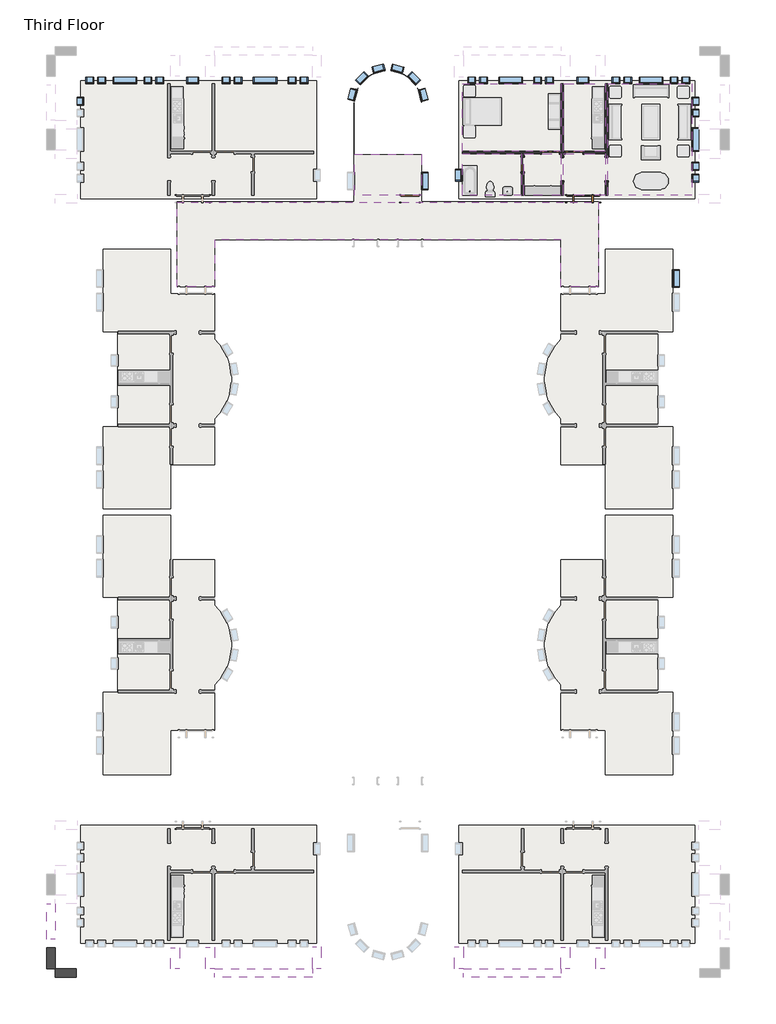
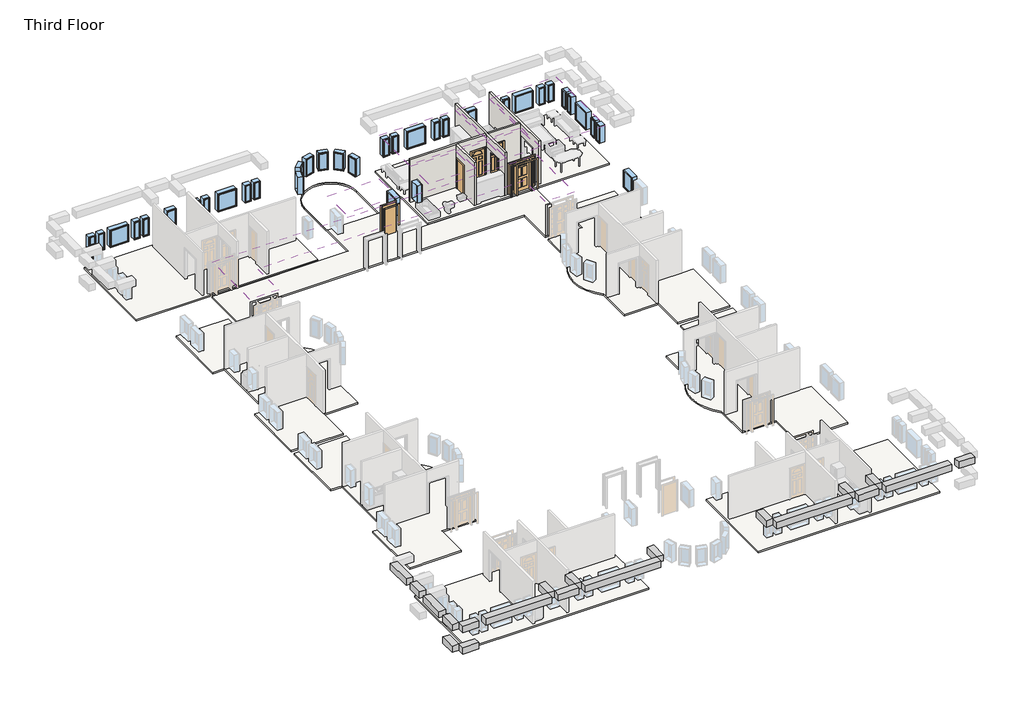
# One storey, part 3 of 4: 37 windows, 11 beams, 9 slabs, 8 coverings, 5 doors, 5 walls.
"""IFC4 building model written with IfcOpenShell, lengths in millimetres."""

from ifc_helpers import new_model, si_unit, point, frame, frame_2d, origin, place, context, project, spatial, polyline, circle_curve, trimmed, segment, composite_curve, outline, extrude, faceted_brep, transform, mapped, element, save
from components import door_829da954, door_2e3b4da2, door_4d6c7550, door_632be17d, door_dba5aa2e, window_da97879f, window_d61ef850, window_60baf983, window_ed80354a, window_15c49d37, window_0e2fc6ce, window_6eb97611, window_d89bf842

model = new_model("IFC4")

# Units and contexts
model_context = context("Model", 3, world=origin())
ifc_project = project(units=[si_unit("LENGTHUNIT", "METRE", prefix="MILLI")], contexts=[model_context])

# Site, building, storey
site = spatial("IfcSite", under=ifc_project)
building = spatial("IfcBuilding", under=site)
storey = spatial("IfcBuildingStorey", under=building, Name="Third Floor", Elevation=6096.0)

# Beams
placement = place(None, origin())
element("IfcBeam", 1, ObjectType="Concrete-Rectangular Beam : 18 x 18", at=placement, inside=storey, context=model_context, shape_type="SweptSolid", body=[
    extrude(outline(polyline([(2093.9410437, -35349.9683133), (2093.9410437, -35807.1683133), (1027.1410437, -35807.1683133), (1027.1410437, -35349.9683133), (2093.9410437, -35349.9683133)])), frame((0.0, 0.0, 8686.8), z_axis=(0.0, 0.0, 1.0), x_axis=(1.0, 0.0, 0.0)), (0.0, 0.0, 1.0), 457.2),
    extrude(outline(polyline([(569.9410437, -35349.9683133), (569.9410437, -35807.1683133), (-3862.3589563, -35807.1683133), (-3862.3589563, -35349.9683133), (569.9410437, -35349.9683133)])), frame((0.0, 0.0, 8686.8), z_axis=(0.0, 0.0, 1.0), x_axis=(1.0, 0.0, 0.0)), (0.0, 0.0, 1.0), 457.2),
    extrude(outline(polyline([(-5665.7589563, -35807.1683133), (-5665.7589563, -35349.9683133), (-4319.5589563, -35349.9683133), (-4319.5589563, -35807.1683133), (-5665.7589563, -35807.1683133)])), frame((0.0, 0.0, 8686.8), z_axis=(0.0, 0.0, 1.0), x_axis=(1.0, 0.0, 0.0)), (0.0, 0.0, 1.0), 457.2),
    extrude(outline(polyline([(-6122.9589563, -35349.9683133), (-6122.9589563, -35807.1683133), (-11164.8589563, -35807.1683133), (-11164.8589563, -35349.9683133), (-6122.9589563, -35349.9683133)])), frame((0.0, 0.0, 8686.8), z_axis=(0.0, 0.0, 1.0), x_axis=(1.0, 0.0, 0.0)), (0.0, 0.0, 1.0), 457.2),
])
element("IfcBeam", 2, ObjectType="Concrete-Rectangular Beam : 18 x 18", at=placement, inside=storey, context=model_context, shape_type="SweptSolid", body=[
    extrude(outline(polyline([(-11622.0589563, -34232.3683133), (-11164.8589563, -34232.3683133), (-11164.8589563, -35349.9683133), (-11622.0589563, -35349.9683133), (-11622.0589563, -34232.3683133)])), frame((0.0, 0.0, 8686.8), z_axis=(0.0, 0.0, 1.0), x_axis=(1.0, 0.0, 0.0)), (0.0, 0.0, 1.0), 457.2),
])
element("IfcBeam", 3, ObjectType="Concrete-Rectangular Beam : 18 x 18", at=placement, inside=storey, context=model_context, shape_type="SweptSolid", body=[
    extrude(outline(polyline([(-6122.9589563, -34251.4183133), (-5665.7589563, -34251.4183133), (-5665.7589563, -35349.9683133), (-6122.9589563, -35349.9683133), (-6122.9589563, -34251.4183133)])), frame((0.0, 0.0, 8686.8), z_axis=(0.0, 0.0, 1.0), x_axis=(1.0, 0.0, 0.0)), (0.0, 0.0, 1.0), 457.2),
])
element("IfcBeam", 4, ObjectType="Concrete-Rectangular Beam : 18 x 18", at=placement, inside=storey, context=model_context, shape_type="SweptSolid", body=[
    extrude(outline(polyline([(-4319.5589563, -34283.1683133), (-3862.3589563, -34283.1683133), (-3862.3589563, -35349.9683133), (-4319.5589563, -35349.9683133), (-4319.5589563, -34283.1683133)])), frame((0.0, 0.0, 8686.8), z_axis=(0.0, 0.0, 1.0), x_axis=(1.0, 0.0, 0.0)), (0.0, 0.0, 1.0), 457.2),
])
element("IfcBeam", 5, ObjectType="Concrete-Rectangular Beam : 18 x 18", at=placement, inside=storey, context=model_context, shape_type="SweptSolid", body=[
    extrude(outline(polyline([(-32218.2839563, -35807.1683133), (-32218.2839563, -35349.9683133), (-31151.4839563, -35349.9683133), (-31151.4839563, -35807.1683133), (-32218.2839563, -35807.1683133)])), frame((0.0, 0.0, 8686.8), z_axis=(0.0, 0.0, 1.0), x_axis=(1.0, 0.0, 0.0)), (0.0, 0.0, 1.0), 457.2),
    extrude(outline(polyline([(-30694.2839563, -35807.1683133), (-30694.2839563, -35349.9683133), (-26261.9839563, -35349.9683133), (-26261.9839563, -35807.1683133), (-30694.2839563, -35807.1683133)])), frame((0.0, 0.0, 8686.8), z_axis=(0.0, 0.0, 1.0), x_axis=(1.0, 0.0, 0.0)), (0.0, 0.0, 1.0), 457.2),
    extrude(outline(polyline([(-24458.5839563, -35349.9683133), (-24458.5839563, -35807.1683133), (-25804.7839563, -35807.1683133), (-25804.7839563, -35349.9683133), (-24458.5839563, -35349.9683133)])), frame((0.0, 0.0, 8686.8), z_axis=(0.0, 0.0, 1.0), x_axis=(1.0, 0.0, 0.0)), (0.0, 0.0, 1.0), 457.2),
    extrude(outline(polyline([(-24001.3839563, -35807.1683133), (-24001.3839563, -35349.9683133), (-18959.4839563, -35349.9683133), (-18959.4839563, -35807.1683133), (-24001.3839563, -35807.1683133)])), frame((0.0, 0.0, 8686.8), z_axis=(0.0, 0.0, 1.0), x_axis=(1.0, 0.0, 0.0)), (0.0, 0.0, 1.0), 457.2),
])
element("IfcBeam", 6, ObjectType="Concrete-Rectangular Beam : 18 x 18", at=placement, inside=storey, context=model_context, shape_type="SweptSolid", body=[
    extrude(outline(polyline([(-32218.2839563, -35349.9683133), (-32675.4839563, -35349.9683133), (-32675.4839563, -34283.1683133), (-32218.2839563, -34283.1683133), (-32218.2839563, -35349.9683133)])), frame((0.0, 0.0, 8686.8), z_axis=(0.0, 0.0, 1.0), x_axis=(1.0, 0.0, 0.0)), (0.0, 0.0, 1.0), 457.2),
    extrude(outline(polyline([(-32675.4839563, -28187.1683133), (-32218.2839563, -28187.1683133), (-32218.2839563, -30015.9683133), (-32675.4839563, -30015.9683133), (-32675.4839563, -28187.1683133)])), frame((0.0, 0.0, 8686.8), z_axis=(0.0, 0.0, 1.0), x_axis=(1.0, 0.0, 0.0)), (0.0, 0.0, 1.0), 457.2),
    extrude(outline(polyline([(-32675.4839563, -30473.1683133), (-32218.2839563, -30473.1683133), (-32218.2839563, -31539.9683133), (-32675.4839563, -31539.9683133), (-32675.4839563, -30473.1683133)])), frame((0.0, 0.0, 8686.8), z_axis=(0.0, 0.0, 1.0), x_axis=(1.0, 0.0, 0.0)), (0.0, 0.0, 1.0), 457.2),
    extrude(outline(polyline([(-32218.2839563, -33825.9683133), (-32675.4839563, -33825.9683133), (-32675.4839563, -31997.1683133), (-32218.2839563, -31997.1683133), (-32218.2839563, -33825.9683133)])), frame((0.0, 0.0, 8686.8), z_axis=(0.0, 0.0, 1.0), x_axis=(1.0, 0.0, 0.0)), (0.0, 0.0, 1.0), 457.2),
])
element("IfcBeam", 7, ObjectType="Concrete-Rectangular Beam : 18 x 18", at=placement, inside=storey, context=model_context, shape_type="SweptSolid", body=[
    extrude(outline(polyline([(-32218.2839563, -35807.1683133), (-32218.2839563, -35349.9683133), (-31151.4839563, -35349.9683133), (-31151.4839563, -35807.1683133), (-32218.2839563, -35807.1683133)])), frame((0.0, 0.0, 7162.8), z_axis=(0.0, 0.0, 1.0), x_axis=(1.0, 0.0, 0.0)), (0.0, 0.0, 1.0), 457.2),
])
element("IfcBeam", 8, ObjectType="Concrete-Rectangular Beam : 18 x 18", at=placement, inside=storey, context=model_context, shape_type="SweptSolid", body=[
    extrude(outline(polyline([(-32675.4839563, -34283.1683133), (-32218.2839563, -34283.1683133), (-32218.2839563, -35349.9683133), (-32675.4839563, -35349.9683133), (-32675.4839563, -34283.1683133)])), frame((0.0, 0.0, 7162.8), z_axis=(0.0, 0.0, 1.0), x_axis=(1.0, 0.0, 0.0)), (0.0, 0.0, 1.0), 457.2),
])
element("IfcBeam", 9, ObjectType="Concrete-Rectangular Beam : 18 x 18", at=placement, inside=storey, context=model_context, shape_type="SweptSolid", body=[
    extrude(outline(polyline([(-18959.4839563, -34232.3683133), (-18502.2839563, -34232.3683133), (-18502.2839563, -35349.9683133), (-18959.4839563, -35349.9683133), (-18959.4839563, -34232.3683133)])), frame((0.0, 0.0, 8686.8), z_axis=(0.0, 0.0, 1.0), x_axis=(1.0, 0.0, 0.0)), (0.0, 0.0, 1.0), 457.2),
])
element("IfcBeam", 10, ObjectType="Concrete-Rectangular Beam : 18 x 18", at=placement, inside=storey, context=model_context, shape_type="SweptSolid", body=[
    extrude(outline(polyline([(-24458.5839563, -34251.4183133), (-24001.3839563, -34251.4183133), (-24001.3839563, -35349.9683133), (-24458.5839563, -35349.9683133), (-24458.5839563, -34251.4183133)])), frame((0.0, 0.0, 8686.8), z_axis=(0.0, 0.0, 1.0), x_axis=(1.0, 0.0, 0.0)), (0.0, 0.0, 1.0), 457.2),
])
element("IfcBeam", 11, ObjectType="Concrete-Rectangular Beam : 18 x 18", at=placement, inside=storey, context=model_context, shape_type="SweptSolid", body=[
    extrude(outline(polyline([(-26261.9839563, -34283.1683133), (-25804.7839563, -34283.1683133), (-25804.7839563, -35349.9683133), (-26261.9839563, -35349.9683133), (-26261.9839563, -34283.1683133)])), frame((0.0, 0.0, 8686.8), z_axis=(0.0, 0.0, 1.0), x_axis=(1.0, 0.0, 0.0)), (0.0, 0.0, 1.0), 457.2),
])

# Coverings
element("IfcCovering", 12, ObjectType="GWB on Mtl. Stud", at=placement, inside=storey, context=model_context, shape_type="SweptSolid", body=[
    extrude(outline(polyline([(-11217.2464563, 10270.0191867), (-6122.9589563, 10270.0191867), (-6122.9589563, 6787.0441867), (-11217.2464563, 6787.0441867), (-11217.2464563, 10270.0191867)])), frame((0.0, 0.0, 8686.8), z_axis=(0.0, 0.0, 1.0), x_axis=(1.0, 0.0, 0.0)), (0.0, 0.0, 1.0), 107.95),
])
element("IfcCovering", 13, ObjectType="GWB on Mtl. Stud", at=placement, inside=storey, context=model_context, shape_type="SweptSolid", body=[
    extrude(outline(polyline([(-5995.9589563, 6787.0441867), (-5995.9589563, 10270.0191867), (-3836.9589563, 10270.0191867), (-3836.9589563, 6787.0441867), (-5995.9589563, 6787.0441867)])), frame((0.0, 0.0, 8686.8), z_axis=(0.0, 0.0, 1.0), x_axis=(1.0, 0.0, 0.0)), (0.0, 0.0, 1.0), 107.95),
])
element("IfcCovering", 14, ObjectType="GWB on Mtl. Stud", at=placement, inside=storey, context=model_context, shape_type="SweptSolid", body=[
    extrude(outline(polyline([(-3709.9589563, 4526.4441867), (-3709.9589563, 10270.0191867), (622.3285437, 10270.0191867), (622.3285437, 4526.4441867), (-3709.9589563, 4526.4441867)])), frame((0.0, 0.0, 8686.8), z_axis=(0.0, 0.0, 1.0), x_axis=(1.0, 0.0, 0.0)), (0.0, 0.0, 1.0), 107.95),
])
element("IfcCovering", 15, ObjectType="GWB on Mtl. Stud", at=placement, inside=storey, context=model_context, shape_type="SweptSolid", body=[
    extrude(outline(polyline([(-3836.9589563, 4526.4441867), (-5995.9589563, 4526.4441867), (-5995.9589563, 6660.0441867), (-3836.9589563, 6660.0441867), (-3836.9589563, 4526.4441867)])), frame((0.0, 0.0, 8686.8), z_axis=(0.0, 0.0, 1.0), x_axis=(1.0, 0.0, 0.0)), (0.0, 0.0, 1.0), 107.95),
])
element("IfcCovering", 16, ObjectType="GWB on Mtl. Stud", at=placement, inside=storey, context=model_context, shape_type="SweptSolid", body=[
    extrude(outline(polyline([(-6122.9589563, 4526.4441867), (-8042.2464563, 4526.4441867), (-8042.2464563, 6660.0441867), (-6122.9589563, 6660.0441867), (-6122.9589563, 4526.4441867)])), frame((0.0, 0.0, 8686.8), z_axis=(0.0, 0.0, 1.0), x_axis=(1.0, 0.0, 0.0)), (0.0, 0.0, 1.0), 107.95),
])
element("IfcCovering", 17, ObjectType="GWB on Mtl. Stud", at=placement, inside=storey, context=model_context, shape_type="SweptSolid", body=[
    extrude(outline(polyline([(-8169.2464563, 6660.0441867), (-8169.2464563, 4526.4441867), (-11217.2464563, 4526.4441867), (-11217.2464563, 6660.0441867), (-8169.2464563, 6660.0441867)])), frame((0.0, 0.0, 8686.8), z_axis=(0.0, 0.0, 1.0), x_axis=(1.0, 0.0, 0.0)), (0.0, 0.0, 1.0), 107.95),
])
element("IfcCovering", 18, ObjectType="GWB on Mtl. Stud", at=placement, inside=storey, context=model_context, shape_type="SweptSolid", body=[
    extrude(outline(polyline([(-13333.3839563, 4526.4441867), (-16790.9589563, 4526.4441867), (-16790.9589563, 6636.2316867), (-13333.3839563, 6636.2316867), (-13333.3839563, 4526.4441867)])), frame((0.0, 0.0, 8534.4), z_axis=(0.0, 0.0, 1.0), x_axis=(1.0, 0.0, 0.0)), (0.0, 0.0, 1.0), 107.95),
])
element("IfcCovering", 19, ObjectType="GWB on Mtl. Stud", at=placement, inside=storey, context=model_context, shape_type="SweptSolid", body=[
    extrude(outline(polyline([(-6122.9589563, -197.9558133), (-6122.9589563, 2240.4441867), (-24001.3839563, 2240.4441867), (-24001.3839563, -197.9558133), (-25934.9589563, -197.9558133), (-25934.9589563, 4174.0191867), (-4189.3839563, 4174.0191867), (-4189.3839563, -197.9558133), (-6122.9589563, -197.9558133)])), frame((0.0, 0.0, 8534.4), z_axis=(0.0, 0.0, 1.0), x_axis=(1.0, 0.0, 0.0)), (0.0, 0.0, 1.0), 107.95),
])

# Doors
door_shape = door_829da954(model_context)
element("IfcDoor", 20, ObjectType="Single-Decorative 2 : 36\" x 84\"", at=placement, inside=storey, context=model_context, shape_type="MappedRepresentation", body=[
    mapped(door_shape, transform((-5449.8589563, 6723.5441867, 6096.0), x_axis=(-1.0, 0.0, 0.0), y_axis=(0.0, -1.0, 0.0), z_axis=(0.0, 0.0, 1.0))),
])
door_2_shape = door_2e3b4da2(model_context)
element("IfcDoor", 21, ObjectType="Single-Decorative 2 : 36\" x 84\"", at=placement, inside=storey, context=model_context, shape_type="MappedRepresentation", body=[
    mapped(door_2_shape, transform((-6669.0589563, 6723.5441867, 6096.0), x_axis=(1.0, 0.0, 0.0), y_axis=(0.0, 1.0, 0.0), z_axis=(0.0, 0.0, 1.0))),
])
door_3_shape = door_4d6c7550(model_context)
element("IfcDoor", 22, ObjectType="Single-Flush : 30\" x 84\"", at=placement, inside=storey, context=model_context, shape_type="MappedRepresentation", body=[
    mapped(door_3_shape, transform((-8105.7464563, 6113.9441867, 6096.0), x_axis=(0.0, 1.0, 0.0), y_axis=(-1.0, 0.0, 0.0), z_axis=(0.0, 0.0, 1.0))),
])
door_4_shape = door_632be17d(model_context)
element("IfcDoor", 23, ObjectType="Single-Flush : 36\" x 84\"", at=placement, inside=storey, context=model_context, shape_type="MappedRepresentation", body=[
    mapped(door_4_shape, transform((-13919.1714563, 4350.2316867, 6096.0), x_axis=(1.0, 0.0, 0.0), y_axis=(0.0, 1.0, 0.0), z_axis=(0.0, 0.0, 1.0))),
])
door_5_shape = door_dba5aa2e(model_context)
element("IfcDoor", 24, ObjectType="Single-Raised Panel with Sidelights : 36\" x 84\"", at=placement, inside=storey, context=model_context, shape_type="MappedRepresentation", body=[
    mapped(door_5_shape, transform((-4992.6589563, 4350.2316867, 6096.0), x_axis=(-1.0, 0.0, 0.0), y_axis=(0.0, -1.0, 0.0), z_axis=(0.0, 0.0, 1.0))),
])

# Slabs
element("IfcSlab", 25, ObjectType="LW Concrete on Metal Deck", at=placement, inside=storey, context=model_context, shape_type="SweptSolid", body=[
    extrude(outline(polyline([(787.4285437, 10435.1191867), (787.4285437, 4361.3441867), (-11382.3464563, 4361.3441867), (-11382.3464563, 10435.1191867), (787.4285437, 10435.1191867)])), frame((0.0, 0.0, 5991.225), z_axis=(0.0, 0.0, 1.0), x_axis=(1.0, 0.0, 0.0)), (0.0, 0.0, 1.0), 104.775),
])
element("IfcSlab", 26, ObjectType="LW Concrete on Metal Deck", at=placement, inside=storey, context=model_context, shape_type="SweptSolid", body=[
    extrude(outline(composite_curve([segment(polyline([(-13320.6839563, 9227.0316867), (-13320.6839563, 4186.7191867), (-4189.3839563, 4186.7191867), (-4189.3839563, -197.9558133), (-6135.6589563, -197.9558133), (-6135.6589563, 2227.7441867), (-23988.6839563, 2227.7441867), (-23988.6839563, -197.9558133), (-25934.9589563, -197.9558133), (-25934.9589563, 4186.7191867), (-16803.6589563, 4186.7191867), (-16803.6589563, 9227.0316867)]), True, "CONTINUOUS"), segment(trimmed(circle_curve(frame_2d((-15062.1714563, 9227.0316867)), 1741.4875), [point((-16803.6589563, 9227.0316867))], [point((-13320.6839563, 9227.0316867))], False, "CARTESIAN"), True, "CONTINUOUS")], self_intersect=False), holes=[composite_curve([segment(polyline([(-16790.9589563, 6636.2316867), (-13333.3839563, 6636.2316867), (-13333.3839563, 9227.0316867)]), True, "CONTINUOUS"), segment(trimmed(circle_curve(frame_2d((-15062.1714563, 9227.0316867)), 1728.7875), [point((-13333.3839563, 9227.0316867))], [point((-16790.9589563, 9227.0316867))], True, "CARTESIAN"), True, "CONTINUOUS"), segment(polyline([(-16790.9589563, 9227.0316867), (-16790.9589563, 6636.2316867)]), True, "CONTINUOUS")], self_intersect=False)]), frame((0.0, 0.0, 5991.225), z_axis=(0.0, 0.0, 1.0), x_axis=(1.0, 0.0, 0.0)), (0.0, 0.0, 1.0), 104.775),
])
element("IfcSlab", 27, ObjectType="LW Concrete on Metal Deck", at=placement, inside=storey, context=model_context, shape_type="SweptSolid", body=[
    extrude(outline(composite_curve([segment(polyline([(-366.6839563, -7395.6808133), (-366.6839563, -11640.6558133), (-3849.6589563, -11640.6558133), (-3849.6589563, -9354.6558133), (-6135.6589563, -9354.6558133), (-6135.6589563, -6994.1453152)]), True, "CONTINUOUS"), segment(trimmed(circle_curve(frame_2d((-4122.4640713, -4946.1683133)), 2871.7875), [point((-6135.6589563, -6994.1453152))], [point((-6135.6589563, -2898.1913115))], False, "CARTESIAN"), True, "CONTINUOUS"), segment(polyline([(-6135.6589563, -2898.1913115), (-6135.6589563, -537.6808133), (-3849.6589563, -537.6808133), (-3849.6589563, 1748.3191867), (-366.6839563, 1748.3191867), (-366.6839563, -2496.6558133), (-1128.6839563, -2496.6558133), (-1128.6839563, -7395.6808133), (-366.6839563, -7395.6808133)]), True, "CONTINUOUS")], self_intersect=False)), frame((0.0, 0.0, 5991.225), z_axis=(0.0, 0.0, 1.0), x_axis=(1.0, 0.0, 0.0)), (0.0, 0.0, 1.0), 104.775),
])
element("IfcSlab", 28, ObjectType="LW Concrete on Metal Deck", at=placement, inside=storey, context=model_context, shape_type="SweptSolid", body=[
    extrude(outline(polyline([(-30911.7714563, 10435.1191867), (-18741.9964563, 10435.1191867), (-18741.9964563, 4361.3441867), (-30911.7714563, 4361.3441867), (-30911.7714563, 10435.1191867)])), frame((0.0, 0.0, 5991.225), z_axis=(0.0, 0.0, 1.0), x_axis=(1.0, 0.0, 0.0)), (0.0, 0.0, 1.0), 104.775),
])
element("IfcSlab", 29, ObjectType="LW Concrete on Metal Deck", at=placement, inside=storey, context=model_context, shape_type="SweptSolid", body=[
    extrude(outline(composite_curve([segment(polyline([(-29757.6589563, -7395.6808133), (-28995.6589563, -7395.6808133), (-28995.6589563, -2496.6558133), (-29757.6589563, -2496.6558133), (-29757.6589563, 1748.3191867), (-26274.6839563, 1748.3191867), (-26274.6839563, -537.6808133), (-23988.6839563, -537.6808133), (-23988.6839563, -2898.1913115)]), True, "CONTINUOUS"), segment(trimmed(circle_curve(frame_2d((-26001.8788413, -4946.1683133)), 2871.7875), [point((-23988.6839563, -2898.1913115))], [point((-23988.6839563, -6994.1453152))], False, "CARTESIAN"), True, "CONTINUOUS"), segment(polyline([(-23988.6839563, -6994.1453152), (-23988.6839563, -9354.6558133), (-26274.6839563, -9354.6558133), (-26274.6839563, -11640.6558133), (-29757.6589563, -11640.6558133), (-29757.6589563, -7395.6808133)]), True, "CONTINUOUS")], self_intersect=False)), frame((0.0, 0.0, 5991.225), z_axis=(0.0, 0.0, 1.0), x_axis=(1.0, 0.0, 0.0)), (0.0, 0.0, 1.0), 104.775),
])
element("IfcSlab", 30, ObjectType="LW Concrete on Metal Deck", at=placement, inside=storey, context=model_context, shape_type="SweptSolid", body=[
    extrude(outline(polyline([(787.4285437, -34043.4558133), (-11382.3464563, -34043.4558133), (-11382.3464563, -27969.6808133), (787.4285437, -27969.6808133), (787.4285437, -34043.4558133)])), frame((0.0, 0.0, 5991.225), z_axis=(0.0, 0.0, 1.0), x_axis=(1.0, 0.0, 0.0)), (0.0, 0.0, 1.0), 104.775),
])
element("IfcSlab", 31, ObjectType="LW Concrete on Metal Deck", at=placement, inside=storey, context=model_context, shape_type="SweptSolid", body=[
    extrude(outline(composite_curve([segment(polyline([(-366.6839563, -16212.6558133), (-1128.6839563, -16212.6558133), (-1128.6839563, -21111.6808133), (-366.6839563, -21111.6808133), (-366.6839563, -25356.6558133), (-3849.6589563, -25356.6558133), (-3849.6589563, -23070.6558133), (-6135.6589563, -23070.6558133), (-6135.6589563, -20710.1453152)]), True, "CONTINUOUS"), segment(trimmed(circle_curve(frame_2d((-4122.4640713, -18662.1683133)), 2871.7875), [point((-6135.6589563, -20710.1453152))], [point((-6135.6589563, -16614.1913115))], False, "CARTESIAN"), True, "CONTINUOUS"), segment(polyline([(-6135.6589563, -16614.1913115), (-6135.6589563, -14253.6808133), (-3849.6589563, -14253.6808133), (-3849.6589563, -11967.6808133), (-366.6839563, -11967.6808133), (-366.6839563, -16212.6558133)]), True, "CONTINUOUS")], self_intersect=False)), frame((0.0, 0.0, 5991.225), z_axis=(0.0, 0.0, 1.0), x_axis=(1.0, 0.0, 0.0)), (0.0, 0.0, 1.0), 104.775),
])
element("IfcSlab", 32, ObjectType="LW Concrete on Metal Deck", at=placement, inside=storey, context=model_context, shape_type="SweptSolid", body=[
    extrude(outline(polyline([(-30911.7714563, -34043.4558133), (-30911.7714563, -27969.6808133), (-18741.9964563, -27969.6808133), (-18741.9964563, -34043.4558133), (-30911.7714563, -34043.4558133)])), frame((0.0, 0.0, 5991.225), z_axis=(0.0, 0.0, 1.0), x_axis=(1.0, 0.0, 0.0)), (0.0, 0.0, 1.0), 104.775),
])
element("IfcSlab", 33, ObjectType="LW Concrete on Metal Deck", at=placement, inside=storey, context=model_context, shape_type="SweptSolid", body=[
    extrude(outline(composite_curve([segment(polyline([(-29757.6589563, -16212.6558133), (-29757.6589563, -11967.6808133), (-26274.6839563, -11967.6808133), (-26274.6839563, -14253.6808133), (-23988.6839563, -14253.6808133), (-23988.6839563, -16614.1913115)]), True, "CONTINUOUS"), segment(trimmed(circle_curve(frame_2d((-26001.8788413, -18662.1683133)), 2871.7875), [point((-23988.6839563, -16614.1913115))], [point((-23988.6839563, -20710.1453152))], False, "CARTESIAN"), True, "CONTINUOUS"), segment(polyline([(-23988.6839563, -20710.1453152), (-23988.6839563, -23070.6558133), (-26274.6839563, -23070.6558133), (-26274.6839563, -25356.6558133), (-29757.6589563, -25356.6558133), (-29757.6589563, -21111.6808133), (-28995.6589563, -21111.6808133), (-28995.6589563, -16212.6558133), (-29757.6589563, -16212.6558133)]), True, "CONTINUOUS")], self_intersect=False)), frame((0.0, 0.0, 5991.225), z_axis=(0.0, 0.0, 1.0), x_axis=(1.0, 0.0, 0.0)), (0.0, 0.0, 1.0), 104.775),
])

# Walls
element("IfcWall", 34, ObjectType="Interior - 5\" Partition (2-hr)", at=placement, inside=storey, context=model_context, shape_type="Brep", body=[
    faceted_brep([(-3836.9589563, 10270.0191867, 6096.0), (-3836.9589563, 6787.0441867, 6096.0), (-3836.9589563, 6660.0441867, 6096.0), (-3836.9589563, 6483.8316867, 6096.0), (-3836.9589563, 6483.8316867, 8229.6), (-3836.9589563, 5264.6316867, 8229.6), (-3836.9589563, 5264.6316867, 6096.0), (-3836.9589563, 4526.4441867, 6096.0), (-3836.9589563, 4526.4441867, 9144.0), (-3836.9589563, 6660.0441867, 9144.0), (-3836.9589563, 6787.0441867, 9144.0), (-3836.9589563, 10270.0191867, 9144.0), (-3709.9589563, 6483.8316867, 8229.6), (-3709.9589563, 6483.8316867, 6096.0), (-3709.9589563, 10270.0191867, 6096.0), (-3709.9589563, 10270.0191867, 9144.0), (-3709.9589563, 4526.4441867, 9144.0), (-3709.9589563, 4526.4441867, 6096.0), (-3709.9589563, 5264.6316867, 6096.0), (-3709.9589563, 5264.6316867, 8229.6)], [[[0, 1, 2, 3, 4, 5, 6, 7, 8, 9, 10, 11]], [[12, 13, 14, 15, 16, 17, 18, 19]], [[14, 13, 3, 2, 1, 0]], [[18, 17, 7, 6]], [[11, 10, 9, 8, 16, 15]], [[0, 11, 15, 14]], [[8, 7, 17, 16]], [[6, 5, 19, 18]], [[4, 3, 13, 12]], [[5, 4, 12, 19]]]),
])
element("IfcWall", 35, ObjectType="Interior - 5\" Partition (2-hr)", at=placement, inside=storey, context=model_context, shape_type="Brep", body=[
    faceted_brep([(-6122.9589563, 5264.6316867, 8229.6), (-6122.9589563, 5264.6316867, 6096.0), (-6122.9589563, 4526.4441867, 6096.0), (-6122.9589563, 4526.4441867, 9144.0), (-6122.9589563, 6660.0441867, 9144.0), (-6122.9589563, 6787.0441867, 9144.0), (-6122.9589563, 10270.0191867, 9144.0), (-6122.9589563, 10270.0191867, 6096.0), (-6122.9589563, 6787.0441867, 6096.0), (-6122.9589563, 6660.0441867, 6096.0), (-6122.9589563, 6483.8316867, 6096.0), (-6122.9589563, 6483.8316867, 8229.6), (-5995.9589563, 4526.4441867, 6096.0), (-5995.9589563, 5264.6316867, 6096.0), (-5995.9589563, 5264.6316867, 8229.6), (-5995.9589563, 6483.8316867, 8229.6), (-5995.9589563, 6483.8316867, 6096.0), (-5995.9589563, 6660.0441867, 6096.0), (-5995.9589563, 6787.0441867, 6096.0), (-5995.9589563, 10270.0191867, 6096.0), (-5995.9589563, 10270.0191867, 9144.0), (-5995.9589563, 6787.0441867, 9144.0), (-5995.9589563, 6660.0441867, 9144.0), (-5995.9589563, 4526.4441867, 9144.0)], [[[0, 1, 2, 3, 4, 5, 6, 7, 8, 9, 10, 11]], [[12, 13, 14, 15, 16, 17, 18, 19, 20, 21, 22, 23]], [[2, 1, 13, 12]], [[10, 9, 8, 7, 19, 18, 17, 16]], [[6, 5, 4, 3, 23, 22, 21, 20]], [[7, 6, 20, 19]], [[3, 2, 12, 23]], [[16, 15, 11, 10]], [[14, 13, 1, 0]], [[15, 14, 0, 11]]]),
])
element("IfcWall", 36, ObjectType="Interior - 5\" Partition (2-hr)", at=placement, inside=storey, context=model_context, shape_type="Brep", body=[
    faceted_brep([(-6211.8589563, 6660.0441867, 8229.6), (-6211.8589563, 6660.0441867, 6096.0), (-6122.9589563, 6660.0441867, 6096.0), (-6122.9589563, 6660.0441867, 9144.0), (-8042.2464563, 6660.0441867, 9144.0), (-8169.2464563, 6660.0441867, 9144.0), (-11217.2464563, 6660.0441867, 9144.0), (-11217.2464563, 6660.0441867, 6096.0), (-8169.2464563, 6660.0441867, 6096.0), (-8042.2464563, 6660.0441867, 6096.0), (-7126.2589563, 6660.0441867, 6096.0), (-7126.2589563, 6660.0441867, 8229.6), (-6122.9589563, 6787.0441867, 6096.0), (-6211.8589563, 6787.0441867, 6096.0), (-6211.8589563, 6787.0441867, 8229.6), (-7126.2589563, 6787.0441867, 8229.6), (-7126.2589563, 6787.0441867, 6096.0), (-11217.2464563, 6787.0441867, 6096.0), (-11217.2464563, 6787.0441867, 9144.0), (-6122.9589563, 6787.0441867, 9144.0)], [[[0, 1, 2, 3, 4, 5, 6, 7, 8, 9, 10, 11]], [[12, 13, 14, 15, 16, 17, 18, 19]], [[2, 1, 13, 12]], [[10, 9, 8, 7, 17, 16]], [[6, 5, 4, 3, 19, 18]], [[3, 2, 12, 19]], [[7, 6, 18, 17]], [[14, 13, 1, 0]], [[15, 14, 0, 11]], [[16, 15, 11, 10]]]),
])
element("IfcWall", 37, ObjectType="Interior - 5\" Partition (2-hr)", at=placement, inside=storey, context=model_context, shape_type="SweptSolid", body=[
    extrude(outline(polyline([(6660.0441867, 6096.0), (6494.9441867, 6096.0), (6494.9441867, 8229.6), (5732.9441867, 8229.6), (5732.9441867, 6096.0), (4526.4441867, 6096.0), (4526.4441867, 9144.0), (6660.0441867, 9144.0), (6660.0441867, 6096.0)])), frame((-8169.2464563, 0.0, 0.0), z_axis=(1.0, 0.0, 0.0), x_axis=(0.0, 1.0, 0.0)), (0.0, 0.0, 1.0), 127.0),
])
element("IfcWall", 38, ObjectType="Interior - 5\" Partition (2-hr)", at=placement, inside=storey, context=model_context, shape_type="SweptSolid", body=[
    extrude(outline(polyline([(6096.0, -5995.9589563), (6096.0, -5907.0589563), (8229.6, -5907.0589563), (8229.6, -4992.6589563), (6096.0, -4992.6589563), (6096.0, -3836.9589563), (9144.0, -3836.9589563), (9144.0, -5995.9589563), (6096.0, -5995.9589563)])), frame((0.0, 6660.0441867, 0.0), z_axis=(0.0, 1.0, 0.0), x_axis=(0.0, 0.0, 1.0)), (0.0, 0.0, 1.0), 127.0),
])

# Windows
window_shape = window_da97879f(model_context)
element("IfcWindow", 39, ObjectType="Fixed : 16\" x 48\"", at=placement, inside=storey, context=model_context, shape_type="MappedRepresentation", body=[
    mapped(window_shape, transform((-10771.1589563, 10446.2316867, 6096.0), x_axis=(-1.0, 0.0, 0.0), y_axis=(0.0, -1.0, 0.0), z_axis=(0.0, 0.0, 1.0))),
])
element("IfcWindow", 40, ObjectType="Fixed : 16\" x 48\"", at=placement, inside=storey, context=model_context, shape_type="MappedRepresentation", body=[
    mapped(window_shape, transform((-10161.5589563, 10446.2316867, 6096.0), x_axis=(-1.0, 0.0, 0.0), y_axis=(0.0, -1.0, 0.0), z_axis=(0.0, 0.0, 1.0))),
])
element("IfcWindow", 41, ObjectType="Fixed : 16\" x 48\"", at=placement, inside=storey, context=model_context, shape_type="MappedRepresentation", body=[
    mapped(window_shape, transform((-3328.9589563, 10446.2316867, 6096.0), x_axis=(-1.0, 0.0, 0.0), y_axis=(0.0, -1.0, 0.0), z_axis=(0.0, 0.0, 1.0))),
])
element("IfcWindow", 42, ObjectType="Fixed : 16\" x 48\"", at=placement, inside=storey, context=model_context, shape_type="MappedRepresentation", body=[
    mapped(window_shape, transform((-2719.3589563, 10446.2316867, 6096.0), x_axis=(-1.0, 0.0, 0.0), y_axis=(0.0, -1.0, 0.0), z_axis=(0.0, 0.0, 1.0))),
])
element("IfcWindow", 43, ObjectType="Fixed : 16\" x 48\"", at=placement, inside=storey, context=model_context, shape_type="MappedRepresentation", body=[
    mapped(window_shape, transform((798.5410437, 9417.5316867, 6096.0), x_axis=(0.0, 1.0, 0.0), y_axis=(-1.0, 0.0, 0.0), z_axis=(0.0, 0.0, 1.0))),
])
element("IfcWindow", 44, ObjectType="Fixed : 16\" x 48\"", at=placement, inside=storey, context=model_context, shape_type="MappedRepresentation", body=[
    mapped(window_shape, transform((798.5410437, 8807.9316867, 6096.0), x_axis=(0.0, 1.0, 0.0), y_axis=(-1.0, 0.0, 0.0), z_axis=(0.0, 0.0, 1.0))),
])
element("IfcWindow", 45, ObjectType="Fixed : 16\" x 48\"", at=placement, inside=storey, context=model_context, shape_type="MappedRepresentation", body=[
    mapped(window_shape, transform((-23442.5839563, 10446.2316867, 6096.0), x_axis=(-1.0, 0.0, 0.0), y_axis=(0.0, -1.0, 0.0), z_axis=(0.0, 0.0, 1.0))),
])
element("IfcWindow", 46, ObjectType="Fixed : 16\" x 48\"", at=placement, inside=storey, context=model_context, shape_type="MappedRepresentation", body=[
    mapped(window_shape, transform((-22832.9839563, 10446.2316867, 6096.0), x_axis=(-1.0, 0.0, 0.0), y_axis=(0.0, -1.0, 0.0), z_axis=(0.0, 0.0, 1.0))),
])
element("IfcWindow", 47, ObjectType="Fixed : 16\" x 48\"", at=placement, inside=storey, context=model_context, shape_type="MappedRepresentation", body=[
    mapped(window_shape, transform((-30478.3839563, 10446.2316867, 6096.0), x_axis=(-1.0, 0.0, 0.0), y_axis=(0.0, -1.0, 0.0), z_axis=(0.0, 0.0, 1.0))),
])
element("IfcWindow", 48, ObjectType="Fixed : 16\" x 48\"", at=placement, inside=storey, context=model_context, shape_type="MappedRepresentation", body=[
    mapped(window_shape, transform((-29868.7839563, 10446.2316867, 6096.0), x_axis=(-1.0, 0.0, 0.0), y_axis=(0.0, -1.0, 0.0), z_axis=(0.0, 0.0, 1.0))),
])
window_2_shape = window_d61ef850(model_context)
element("IfcWindow", 49, ObjectType="Fixed : 16\" x 48\"", at=placement, inside=storey, context=model_context, shape_type="MappedRepresentation", body=[
    mapped(window_2_shape, transform((-6681.7589563, 10446.2316867, 6096.0), x_axis=(1.0, 0.0, 0.0), y_axis=(0.0, 1.0, 0.0), z_axis=(0.0, 0.0, 1.0))),
])
element("IfcWindow", 50, ObjectType="Fixed : 16\" x 48\"", at=placement, inside=storey, context=model_context, shape_type="MappedRepresentation", body=[
    mapped(window_2_shape, transform((-7291.3589563, 10446.2316867, 6096.0), x_axis=(1.0, 0.0, 0.0), y_axis=(0.0, 1.0, 0.0), z_axis=(0.0, 0.0, 1.0))),
])
element("IfcWindow", 51, ObjectType="Fixed : 16\" x 48\"", at=placement, inside=storey, context=model_context, shape_type="MappedRepresentation", body=[
    mapped(window_2_shape, transform((354.0410437, 10446.2316867, 6096.0), x_axis=(1.0, 0.0, 0.0), y_axis=(0.0, 1.0, 0.0), z_axis=(0.0, 0.0, 1.0))),
])
element("IfcWindow", 52, ObjectType="Fixed : 16\" x 48\"", at=placement, inside=storey, context=model_context, shape_type="MappedRepresentation", body=[
    mapped(window_2_shape, transform((-255.5589563, 10446.2316867, 6096.0), x_axis=(1.0, 0.0, 0.0), y_axis=(0.0, 1.0, 0.0), z_axis=(0.0, 0.0, 1.0))),
])
element("IfcWindow", 53, ObjectType="Fixed : 16\" x 48\"", at=placement, inside=storey, context=model_context, shape_type="MappedRepresentation", body=[
    mapped(window_2_shape, transform((798.5410437, 5378.9316867, 6096.0), x_axis=(0.0, -1.0, 0.0), y_axis=(1.0, 0.0, 0.0), z_axis=(0.0, 0.0, 1.0))),
])
element("IfcWindow", 54, ObjectType="Fixed : 16\" x 48\"", at=placement, inside=storey, context=model_context, shape_type="MappedRepresentation", body=[
    mapped(window_2_shape, transform((798.5410437, 5988.5316867, 6096.0), x_axis=(0.0, -1.0, 0.0), y_axis=(1.0, 0.0, 0.0), z_axis=(0.0, 0.0, 1.0))),
])
element("IfcWindow", 55, ObjectType="Fixed : 16\" x 48\"", at=placement, inside=storey, context=model_context, shape_type="MappedRepresentation", body=[
    mapped(window_2_shape, transform((-19353.1839563, 10446.2316867, 6096.0), x_axis=(1.0, 0.0, 0.0), y_axis=(0.0, 1.0, 0.0), z_axis=(0.0, 0.0, 1.0))),
])
element("IfcWindow", 56, ObjectType="Fixed : 16\" x 48\"", at=placement, inside=storey, context=model_context, shape_type="MappedRepresentation", body=[
    mapped(window_2_shape, transform((-19962.7839563, 10446.2316867, 6096.0), x_axis=(1.0, 0.0, 0.0), y_axis=(0.0, 1.0, 0.0), z_axis=(0.0, 0.0, 1.0))),
])
element("IfcWindow", 57, ObjectType="Fixed : 16\" x 48\"", at=placement, inside=storey, context=model_context, shape_type="MappedRepresentation", body=[
    mapped(window_2_shape, transform((-26795.3839563, 10446.2316867, 6096.0), x_axis=(1.0, 0.0, 0.0), y_axis=(0.0, 1.0, 0.0), z_axis=(0.0, 0.0, 1.0))),
])
element("IfcWindow", 58, ObjectType="Fixed : 16\" x 48\"", at=placement, inside=storey, context=model_context, shape_type="MappedRepresentation", body=[
    mapped(window_2_shape, transform((-27404.9839563, 10446.2316867, 6096.0), x_axis=(1.0, 0.0, 0.0), y_axis=(0.0, 1.0, 0.0), z_axis=(0.0, 0.0, 1.0))),
])
element("IfcWindow", 59, ObjectType="Fixed : 16\" x 48\"", at=placement, inside=storey, context=model_context, shape_type="MappedRepresentation", body=[
    mapped(window_2_shape, transform((-30922.8839563, 9417.5316867, 6096.0), x_axis=(0.0, 1.0, 0.0), y_axis=(-1.0, 0.0, 0.0), z_axis=(0.0, 0.0, 1.0))),
])
window_3_shape = window_60baf983(model_context)
element("IfcWindow", 60, ObjectType="Fixed : 24\" x 48\"", at=placement, inside=storey, context=model_context, shape_type="MappedRepresentation", body=[
    mapped(window_3_shape, transform((-5030.7589563, 10446.2316867, 6096.0), x_axis=(-1.0, 0.0, 0.0), y_axis=(0.0, -1.0, 0.0), z_axis=(0.0, 0.0, 1.0))),
])
element("IfcWindow", 61, ObjectType="Fixed : 24\" x 48\"", at=placement, inside=storey, context=model_context, shape_type="MappedRepresentation", body=[
    mapped(window_3_shape, transform((-11393.4589563, 5531.3316867, 6096.0), x_axis=(0.0, -1.0, 0.0), y_axis=(1.0, 0.0, 0.0), z_axis=(0.0, 0.0, 1.0))),
])
element("IfcWindow", 62, ObjectType="Fixed : 24\" x 48\"", at=placement, inside=storey, context=model_context, shape_type="MappedRepresentation", body=[
    mapped(window_3_shape, transform((-16889.064163, 9683.0417496, 6096.0), x_axis=(-0.26176149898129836, -0.9651325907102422, 0.0), y_axis=(0.9651325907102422, -0.26176149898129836, 0.0), z_axis=(0.0, 0.0, 1.0))),
])
element("IfcWindow", 63, ObjectType="Fixed : 24\" x 48\"", at=placement, inside=storey, context=model_context, shape_type="MappedRepresentation", body=[
    mapped(window_3_shape, transform((-16416.3019188, 10535.3943388, 6096.0), x_axis=(-0.7092584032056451, -0.7049485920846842, 0.0), y_axis=(0.7049485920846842, -0.7092584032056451, 0.0), z_axis=(0.0, 0.0, 1.0))),
])
element("IfcWindow", 64, ObjectType="Fixed : 24\" x 48\"", at=placement, inside=storey, context=model_context, shape_type="MappedRepresentation", body=[
    mapped(window_3_shape, transform((-15580.7015108, 11037.1722121, 6096.0), x_axis=(-0.9667100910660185, -0.25587418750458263, 0.0), y_axis=(0.25587418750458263, -0.9667100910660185, 0.0), z_axis=(0.0, 0.0, 1.0))),
])
element("IfcWindow", 65, ObjectType="Fixed : 24\" x 48\"", at=placement, inside=storey, context=model_context, shape_type="MappedRepresentation", body=[
    mapped(window_3_shape, transform((-14606.1613934, 11053.9243933, 6096.0), x_axis=(-0.9651325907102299, 0.2617614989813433, 0.0), y_axis=(-0.2617614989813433, -0.9651325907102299, 0.0), z_axis=(0.0, 0.0, 1.0))),
])
element("IfcWindow", 66, ObjectType="Fixed : 24\" x 48\"", at=placement, inside=storey, context=model_context, shape_type="MappedRepresentation", body=[
    mapped(window_3_shape, transform((-13753.8088042, 10581.1621492, 6096.0), x_axis=(-0.7049485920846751, 0.7092584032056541, 0.0), y_axis=(-0.7092584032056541, -0.7049485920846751, 0.0), z_axis=(0.0, 0.0, 1.0))),
])
element("IfcWindow", 67, ObjectType="Fixed : 24\" x 48\"", at=placement, inside=storey, context=model_context, shape_type="MappedRepresentation", body=[
    mapped(window_3_shape, transform((-13252.0309309, 9745.5617412, 6096.0), x_axis=(-0.25587418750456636, 0.9667100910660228, 0.0), y_axis=(-0.9667100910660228, -0.25587418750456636, 0.0), z_axis=(0.0, 0.0, 1.0))),
])
window_4_shape = window_ed80354a(model_context)
element("IfcWindow", 68, ObjectType="Fixed : 24\" x 48\"", at=placement, inside=storey, context=model_context, shape_type="MappedRepresentation", body=[
    mapped(window_4_shape, transform((-25093.5839563, 10446.2316867, 6096.0), x_axis=(1.0, 0.0, 0.0), y_axis=(0.0, 1.0, 0.0), z_axis=(0.0, 0.0, 1.0))),
])
window_5_shape = window_15c49d37(model_context)
element("IfcWindow", 69, ObjectType="Fixed : 36\" x 48\"", at=placement, inside=storey, context=model_context, shape_type="MappedRepresentation", body=[
    mapped(window_5_shape, transform((-13157.1714563, 5302.7316867, 6096.0), x_axis=(0.0, 1.0, 0.0), y_axis=(-1.0, 0.0, 0.0), z_axis=(0.0, 0.0, 1.0))),
])
window_6_shape = window_0e2fc6ce(model_context)
element("IfcWindow", 70, ObjectType="Fixed : 36\" x 48\"", at=placement, inside=storey, context=model_context, shape_type="MappedRepresentation", body=[
    mapped(window_6_shape, transform((-203.1714563, 197.3316867, 6096.0), x_axis=(0.0, -1.0, 0.0), y_axis=(1.0, 0.0, 0.0), z_axis=(0.0, 0.0, 1.0))),
])
window_7_shape = window_6eb97611(model_context)
element("IfcWindow", 71, ObjectType="Fixed : 48\" x 48\"", at=placement, inside=storey, context=model_context, shape_type="MappedRepresentation", body=[
    mapped(window_7_shape, transform((-8764.5589563, 10446.2316867, 6096.0), x_axis=(-1.0, 0.0, 0.0), y_axis=(0.0, -1.0, 0.0), z_axis=(0.0, 0.0, 1.0))),
])
element("IfcWindow", 72, ObjectType="Fixed : 48\" x 48\"", at=placement, inside=storey, context=model_context, shape_type="MappedRepresentation", body=[
    mapped(window_7_shape, transform((-1525.5589563, 10446.2316867, 6096.0), x_axis=(-1.0, 0.0, 0.0), y_axis=(0.0, -1.0, 0.0), z_axis=(0.0, 0.0, 1.0))),
])
element("IfcWindow", 73, ObjectType="Fixed : 48\" x 48\"", at=placement, inside=storey, context=model_context, shape_type="MappedRepresentation", body=[
    mapped(window_7_shape, transform((798.5410437, 7436.3316867, 6096.0), x_axis=(0.0, 1.0, 0.0), y_axis=(-1.0, 0.0, 0.0), z_axis=(0.0, 0.0, 1.0))),
])
window_8_shape = window_d89bf842(model_context)
element("IfcWindow", 74, ObjectType="Fixed : 48\" x 48\"", at=placement, inside=storey, context=model_context, shape_type="MappedRepresentation", body=[
    mapped(window_8_shape, transform((-21359.7839563, 10446.2316867, 6096.0), x_axis=(1.0, 0.0, 0.0), y_axis=(0.0, 1.0, 0.0), z_axis=(0.0, 0.0, 1.0))),
])
element("IfcWindow", 75, ObjectType="Fixed : 48\" x 48\"", at=placement, inside=storey, context=model_context, shape_type="MappedRepresentation", body=[
    mapped(window_8_shape, transform((-28598.7839563, 10446.2316867, 6096.0), x_axis=(1.0, 0.0, 0.0), y_axis=(0.0, 1.0, 0.0), z_axis=(0.0, 0.0, 1.0))),
])

save(model, "model.ifc")
